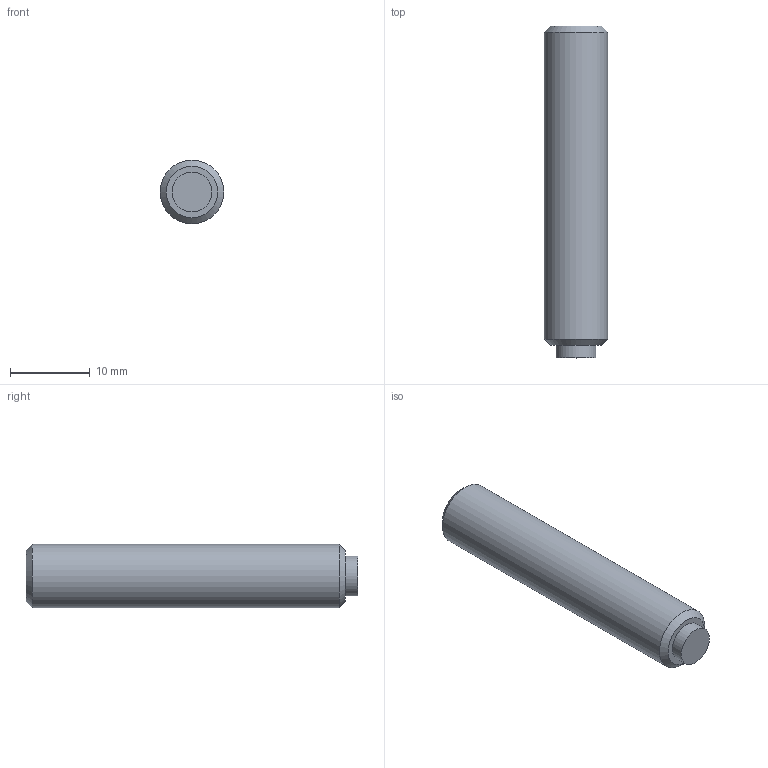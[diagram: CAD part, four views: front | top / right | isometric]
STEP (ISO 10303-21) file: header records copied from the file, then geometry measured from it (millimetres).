
FILE_DESCRIPTION( ( 'STEP AP203' ), '1' );
FILE_NAME( 'C:/Temp/Ganter_Step_05_03_2020/data/3_2/gn913_3/Grub screw GN 913.3-M8-40-KU.stp', '2020-03-13T05:35:38', ( 'License CC BY-ND 4.0' ), ( 'CADENAS' ), ' ', 'PARTsolutions', ' ' );
FILE_SCHEMA( ( 'CONFIG_CONTROL_DESIGN' ) );
Length unit declared in the file: millimetre
Products named in the file (1): _Grub screw GN 913.3-M8-40-KU
Bounding box: 8 x 41.6 x 8 mm (x, y, z)
Volume: 1958.9 mm3; surface area: 1176.1 mm2
Topology: 1 solids, 1 shells, 14 faces, 28 edges, 18 vertices
Faces by surface type: plane 10, cylinder 2, cone 2
Full cylindrical faces by diameter (mm): 5 x1, 8 x1
Entity records: 386 total; most frequent: DIRECTION 60, CARTESIAN_POINT 57, ORIENTED_EDGE 48, EDGE_CURVE 24, AXIS2_PLACEMENT_3D 21, EDGE_LOOP 20, VERTEX_POINT 18, LINE 18
